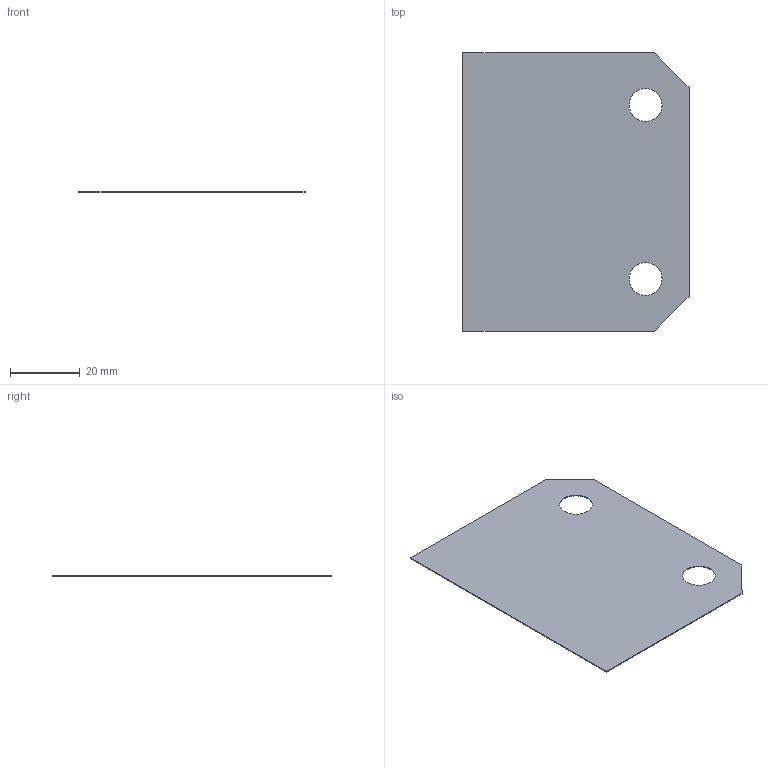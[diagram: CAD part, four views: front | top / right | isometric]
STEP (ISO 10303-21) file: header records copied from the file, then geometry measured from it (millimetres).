
FILE_DESCRIPTION(/* description */ ('PROTECTION MYLAR CHARPENTE 1','CAx-IF Rec.Pracs.---Representation and Presentation of Product Manufacturing Information (PMI)---4.0---2014-10-13'),/* implementation_level */ '2;1');
FILE_NAME(/* name */ 'vv110321-A.stp',/* time_stamp */ '2025-09-26T17:23:21+02:00',/* author */ ('mmartin'),/* organization */ (''),/* preprocessor_version */ 'ST-DEVELOPER v20',/* originating_system */ 'Autodesk Inventor 2025',/* authorisation */ '');
FILE_SCHEMA (('AP242_MANAGED_MODEL_BASED_3D_ENGINEERING_MIM_LF { 1 0 10303 442 1 1 4 }'));
Length unit declared in the file: millimetre
Products named in the file (1): VICTOR.V.11.03.21
Bounding box: 65 x 80 x 0.25 mm (x, y, z)
Volume: 1239.6 mm3; surface area: 10001 mm2
Topology: 1 solids, 1 shells, 10 faces, 24 edges, 16 vertices
Faces by surface type: plane 8, cylinder 2
Full cylindrical faces by diameter (mm): 9.5 x2
Entity records: 423 total; most frequent: CARTESIAN_POINT 71, DIRECTION 62, ORIENTED_EDGE 48, EDGE_CURVE 24, AXIS2_PLACEMENT_3D 21, LINE 20, VECTOR 20, VERTEX_POINT 16
